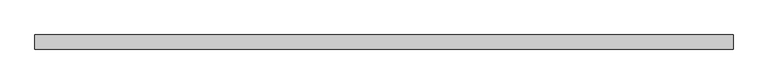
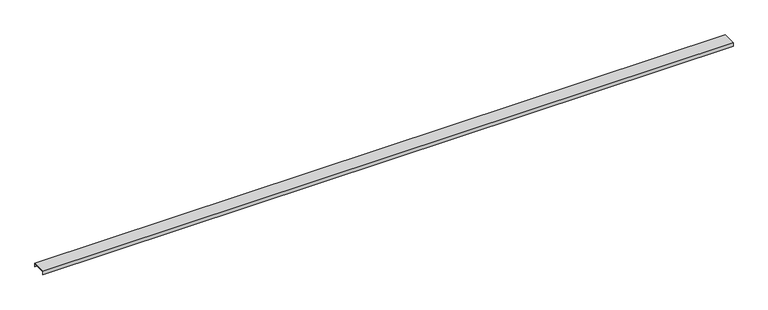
"""IFC4 building model written with IfcOpenShell, lengths in millimetres: proxy geometry, SICON Track Superior 3 5-8 : SICON Track Superior 3 5/8."""

from ifc_helpers import new_model, si_unit, frame, origin, place, context, project, spatial, polyline, outline, extrude, source, transform, mapped, element, save


def generic_models_f0361e2c(model_context):
    return source(origin(), model_context, "Body", "SweptSolid", [
        extrude(outline(polyline([(45.5, -22.0), (44.5, -22.0), (44.5, -1.0), (-44.5, -1.0), (-44.5, -22.0), (-45.5, -22.0), (-45.5, 0.0), (45.5, 0.0), (45.5, -22.0)])), frame((2.5746571, 0.0, 0.0), z_axis=(1.0, 0.0, 0.0), x_axis=(0.0, 1.0, 0.0)), (0.0, 0.0, 1.0), 4500.0),
    ])


if __name__ == "__main__":
    model = new_model("IFC4")
    model_context = context("Model", 3, world=origin())
    ifc_project = project(units=[si_unit("LENGTHUNIT", "METRE", prefix="MILLI")], contexts=[model_context])
    site = spatial("IfcSite", under=ifc_project)
    building = spatial("IfcBuilding", under=site)
    placement = place(None, origin())
    generic_models_shape = generic_models_f0361e2c(model_context)
    element("IfcBuildingElementProxy", 1, Name="SICON Track Superior 3 5-8 : SICON Track Superior 3 5/8", ObjectType="SICON Track Superior 3 5-8 : SICON Track Superior 3 5/8", at=placement, inside=building, context=model_context, shape_type="MappedRepresentation", body=[
        mapped(generic_models_shape, transform((0.0, 0.0, 0.0), x_axis=(1.0, 0.0, 0.0), y_axis=(0.0, 1.0, 0.0), z_axis=(0.0, 0.0, 1.0))),
    ])
    save(model, "model.ifc")
